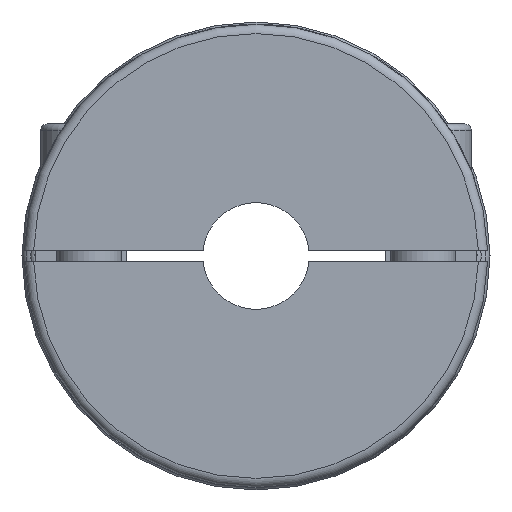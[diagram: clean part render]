
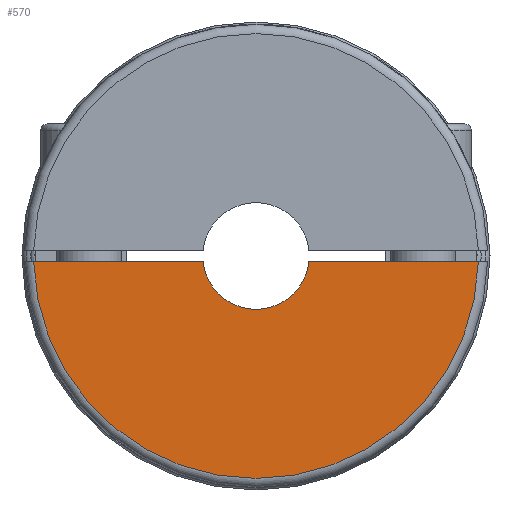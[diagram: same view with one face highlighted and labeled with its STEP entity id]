
A CAD part, left-side view. The second image highlights one B-rep face of the part: STEP entity #570.
In plain terms, the highlighted planar face has unit normal (-1, 0, 0).
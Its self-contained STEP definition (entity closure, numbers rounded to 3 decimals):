
#570 = ADVANCED_FACE( '', ( #1360 ), #1361, .F. );
#1360 = FACE_OUTER_BOUND( '', #2365, .T. );
#1361 = PLANE( '', #2366 );
#2365 = EDGE_LOOP( '', ( #3821, #3822, #3823, #3824 ) );
#2366 = AXIS2_PLACEMENT_3D( '', #3825, #3826, #3827 );
#3821 = ORIENTED_EDGE( '', *, *, #4746, .F. );
#3822 = ORIENTED_EDGE( '', *, *, #5149, .F. );
#3823 = ORIENTED_EDGE( '', *, *, #5150, .F. );
#3824 = ORIENTED_EDGE( '', *, *, #5151, .T. );
#3825 = CARTESIAN_POINT( '', ( -184., 0., 11.5 ) );
#3826 = DIRECTION( '', ( 1., 0., 0. ) );
#3827 = DIRECTION( '', ( 0., 0., 1. ) );
#4746 = EDGE_CURVE( '', #5444, #5435, #5446, .T. );
#5149 = EDGE_CURVE( '', #6070, #5444, #6071, .T. );
#5150 = EDGE_CURVE( '', #6072, #6070, #6073, .T. );
#5151 = EDGE_CURVE( '', #6072, #5435, #6074, .T. );
#5435 = VERTEX_POINT( '', #6448 );
#5444 = VERTEX_POINT( '', #6473 );
#5446 = LINE( '', #6488, #6489 );
#6070 = VERTEX_POINT( '', #8061 );
#6071 = CIRCLE( '', #8062, 48. );
#6072 = VERTEX_POINT( '', #8063 );
#6073 = LINE( '', #8064, #8065 );
#6074 = CIRCLE( '', #8066, 11.5 );
#6448 = CARTESIAN_POINT( '', ( -184., 11.437, -1.2 ) );
#6473 = CARTESIAN_POINT( '', ( -184., 47.985, -1.2 ) );
#6488 = CARTESIAN_POINT( '', ( -184., 0., -1.2 ) );
#6489 = VECTOR( '', #8673, 1000. );
#8061 = CARTESIAN_POINT( '', ( -184., -47.985, -1.2 ) );
#8062 = AXIS2_PLACEMENT_3D( '', #9241, #9242, #9243 );
#8063 = CARTESIAN_POINT( '', ( -184., -11.437, -1.2 ) );
#8064 = CARTESIAN_POINT( '', ( -184., 0., -1.2 ) );
#8065 = VECTOR( '', #9244, 1000. );
#8066 = AXIS2_PLACEMENT_3D( '', #9245, #9246, #9247 );
#8673 = DIRECTION( '', ( 0., -1., 0. ) );
#9241 = CARTESIAN_POINT( '', ( -184., 0., 0. ) );
#9242 = DIRECTION( '', ( 1., 0., 0. ) );
#9243 = DIRECTION( '', ( 0., 0., 1. ) );
#9244 = DIRECTION( '', ( 0., -1., 0. ) );
#9245 = CARTESIAN_POINT( '', ( -184., 0., 0. ) );
#9246 = DIRECTION( '', ( 1., 0., 0. ) );
#9247 = DIRECTION( '', ( 0., 0., 1. ) );
